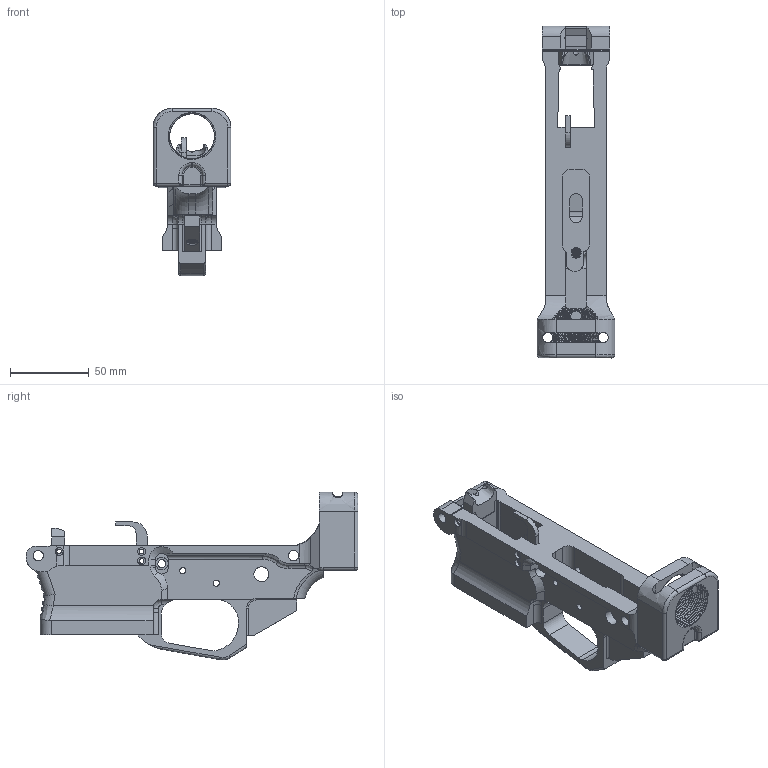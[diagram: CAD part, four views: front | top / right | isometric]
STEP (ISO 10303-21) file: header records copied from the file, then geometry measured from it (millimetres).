
FILE_DESCRIPTION(/* description */ (''),/* implementation_level */ '2;1');
FILE_NAME(/* name */ 'PCC 1.0/AR-9 Sten - Final.step',/* time_stamp */ '2022-03-29T21:34:16-04:00',/* author */ (''),/* organization */ (''),/* preprocessor_version */ 'ST-DEVELOPER v18.1',/* originating_system */ 'Autodesk Translation Framework v10.13.0.1454',/* authorisation */ '');
FILE_SCHEMA (('AUTOMOTIVE_DESIGN { 1 0 10303 214 3 1 1 }'));
Products named in the file (4): AR-9 Sten - Final; Frame (1); Feed Lips; Ejector-steel (5)
Assembly tree (3 placements, depth 2):
  AR-9 Sten - Final
    Frame (1)
    Feed Lips
    Ejector-steel (5)
Bounding box: 49.27 x 210.49 x 106.26 mm (x, y, z)
Volume: 199556 mm3; surface area: 66967.7 mm2
Topology: 3 solids, 3 shells, 607 faces, 1762 edges, 1151 vertices
Faces by surface type: cylinder 250, plane 221, bspline 116, torus 10, cone 8, sphere 2
Full cylindrical faces by diameter (mm): 3 x8, 3.175 x1, 3.962 x3, 4 x1, 5 x5, 5.172 x21, 5.182 x1, 6.35 x20, 6.5 x6, 6.75 x1, 7.938 x1, 9.525 x2, 28.47 x9, 30.043 x9
Entity records: 40200 total; most frequent: CARTESIAN_POINT 25212, ORIENTED_EDGE 3518, DIRECTION 2518, EDGE_CURVE 1759, VERTEX_POINT 1151, AXIS2_PLACEMENT_3D 863, LINE 792, VECTOR 792
